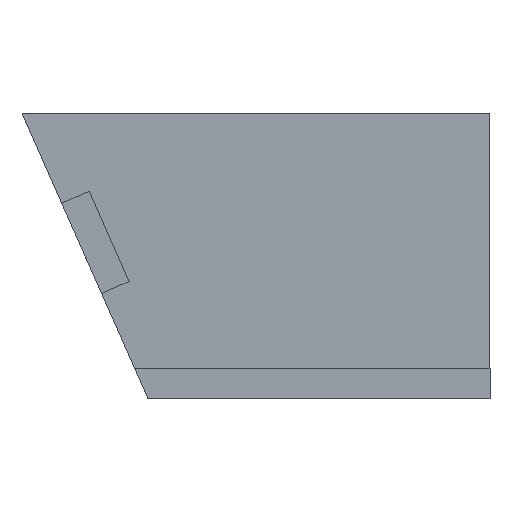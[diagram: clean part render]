
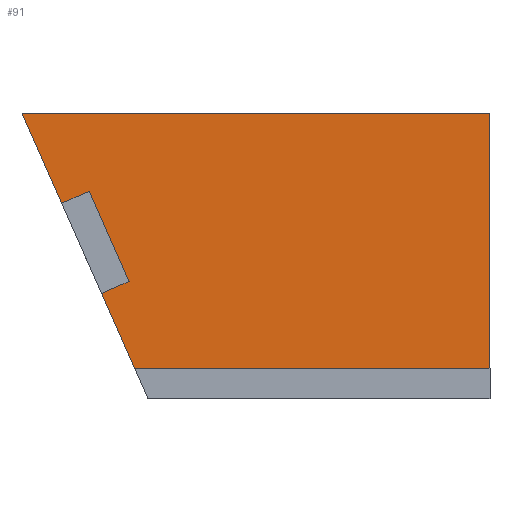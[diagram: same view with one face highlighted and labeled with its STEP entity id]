
A CAD part, top view. The second image highlights one B-rep face of the part: STEP entity #91.
In plain terms, the highlighted planar face has unit normal (0, 0, 1).
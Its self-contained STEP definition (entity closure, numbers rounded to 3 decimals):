
#91=ADVANCED_FACE('',(#198),#199,.T.);
#198=FACE_OUTER_BOUND('',#330,.T.);
#199=PLANE('',#331);
#330=EDGE_LOOP('',(#479,#480,#481,#482,#483,#484,#485,#486,#487,#488,#489,#490));
#331=AXIS2_PLACEMENT_3D('',#491,#492,#493);
#479=ORIENTED_EDGE('',*,*,#791,.F.);
#480=ORIENTED_EDGE('',*,*,#792,.F.);
#481=ORIENTED_EDGE('',*,*,#793,.F.);
#482=ORIENTED_EDGE('',*,*,#786,.F.);
#483=ORIENTED_EDGE('',*,*,#794,.F.);
#484=ORIENTED_EDGE('',*,*,#795,.F.);
#485=ORIENTED_EDGE('',*,*,#765,.F.);
#486=ORIENTED_EDGE('',*,*,#796,.F.);
#487=ORIENTED_EDGE('',*,*,#797,.F.);
#488=ORIENTED_EDGE('',*,*,#798,.F.);
#489=ORIENTED_EDGE('',*,*,#799,.F.);
#490=ORIENTED_EDGE('',*,*,#800,.F.);
#491=CARTESIAN_POINT('',(33.909,-17.632,4.0));
#492=DIRECTION('',(0.0,0.0,1.0));
#493=DIRECTION('',(1.0,0.0,0.0));
#765=EDGE_CURVE('',#904,#905,#906,.T.);
#786=EDGE_CURVE('',#943,#944,#945,.T.);
#791=EDGE_CURVE('',#952,#953,#954,.T.);
#792=EDGE_CURVE('',#955,#952,#956,.T.);
#793=EDGE_CURVE('',#944,#955,#957,.T.);
#794=EDGE_CURVE('',#958,#943,#959,.T.);
#795=EDGE_CURVE('',#905,#958,#960,.T.);
#796=EDGE_CURVE('',#961,#904,#962,.T.);
#797=EDGE_CURVE('',#963,#961,#964,.T.);
#798=EDGE_CURVE('',#965,#963,#966,.T.);
#799=EDGE_CURVE('',#967,#965,#968,.T.);
#800=EDGE_CURVE('',#953,#967,#969,.T.);
#904=VERTEX_POINT('',#1101);
#905=VERTEX_POINT('',#1102);
#906=LINE('',#1103,#1104);
#943=VERTEX_POINT('',#1156);
#944=VERTEX_POINT('',#1157);
#945=LINE('',#1158,#1159);
#952=VERTEX_POINT('',#1169);
#953=VERTEX_POINT('',#1170);
#954=LINE('',#1171,#1172);
#955=VERTEX_POINT('',#1173);
#956=LINE('',#1174,#1175);
#957=LINE('',#1176,#1177);
#958=VERTEX_POINT('',#1178);
#959=LINE('',#1179,#1180);
#960=LINE('',#1181,#1182);
#961=VERTEX_POINT('',#1183);
#962=LINE('',#1184,#1185);
#963=VERTEX_POINT('',#1186);
#964=LINE('',#1187,#1188);
#965=VERTEX_POINT('',#1189);
#966=LINE('',#1190,#1191);
#967=VERTEX_POINT('',#1192);
#968=LINE('',#1193,#1194);
#969=LINE('',#1195,#1196);
#1101=CARTESIAN_POINT('',(14.244,-22.386,4.0));
#1102=CARTESIAN_POINT('',(8.952,-10.386,4.0));
#1103=CARTESIAN_POINT('',(8.952,-10.386,4.0));
#1104=VECTOR('',#1360,1.);
#1156=CARTESIAN_POINT('',(0.0,0.,4.0));
#1157=CARTESIAN_POINT('',(62.255,0.,4.0));
#1158=CARTESIAN_POINT('',(62.255,0.,4.0));
#1159=VECTOR('',#1382,1.0);
#1169=CARTESIAN_POINT('',(47.255,-38.,4.0));
#1170=CARTESIAN_POINT('',(47.255,-34.,4.0));
#1171=CARTESIAN_POINT('',(47.255,-38.,4.0));
#1172=VECTOR('',#1386,1.0);
#1173=CARTESIAN_POINT('',(62.255,-38.,4.0));
#1174=CARTESIAN_POINT('',(62.255,-38.,4.0));
#1175=VECTOR('',#1387,1.0);
#1176=CARTESIAN_POINT('',(62.255,0.,4.0));
#1177=VECTOR('',#1388,1.0);
#1178=CARTESIAN_POINT('',(5.292,-12.,4.0));
#1179=CARTESIAN_POINT('',(0.0,0.,4.0));
#1180=VECTOR('',#1389,1.);
#1181=CARTESIAN_POINT('',(8.952,-10.386,4.0));
#1182=VECTOR('',#1390,1.0);
#1183=CARTESIAN_POINT('',(10.584,-24.,4.0));
#1184=CARTESIAN_POINT('',(14.244,-22.386,4.0));
#1185=VECTOR('',#1391,1.0);
#1186=CARTESIAN_POINT('',(16.759,-38.,4.0));
#1187=CARTESIAN_POINT('',(10.584,-24.,4.0));
#1188=VECTOR('',#1392,1.0);
#1189=CARTESIAN_POINT('',(32.255,-38.,4.0));
#1190=CARTESIAN_POINT('',(32.255,-38.,4.0));
#1191=VECTOR('',#1393,1.0);
#1192=CARTESIAN_POINT('',(32.255,-34.,4.0));
#1193=CARTESIAN_POINT('',(32.255,-38.,4.0));
#1194=VECTOR('',#1394,1.0);
#1195=CARTESIAN_POINT('',(32.255,-34.,4.0));
#1196=VECTOR('',#1395,1.0);
#1360=DIRECTION('',(-0.404,0.915,0.0));
#1382=DIRECTION('',(1.0,0.,0.0));
#1386=DIRECTION('',(0.,1.0,0.0));
#1387=DIRECTION('',(-1.0,0.,0.0));
#1388=DIRECTION('',(0.,-1.0,0.0));
#1389=DIRECTION('',(-0.404,0.915,0.0));
#1390=DIRECTION('',(-0.915,-0.404,0.0));
#1391=DIRECTION('',(0.915,0.404,0.0));
#1392=DIRECTION('',(-0.404,0.915,0.0));
#1393=DIRECTION('',(-1.0,0.,0.0));
#1394=DIRECTION('',(0.,-1.0,0.0));
#1395=DIRECTION('',(-1.0,0.,-0.0));
